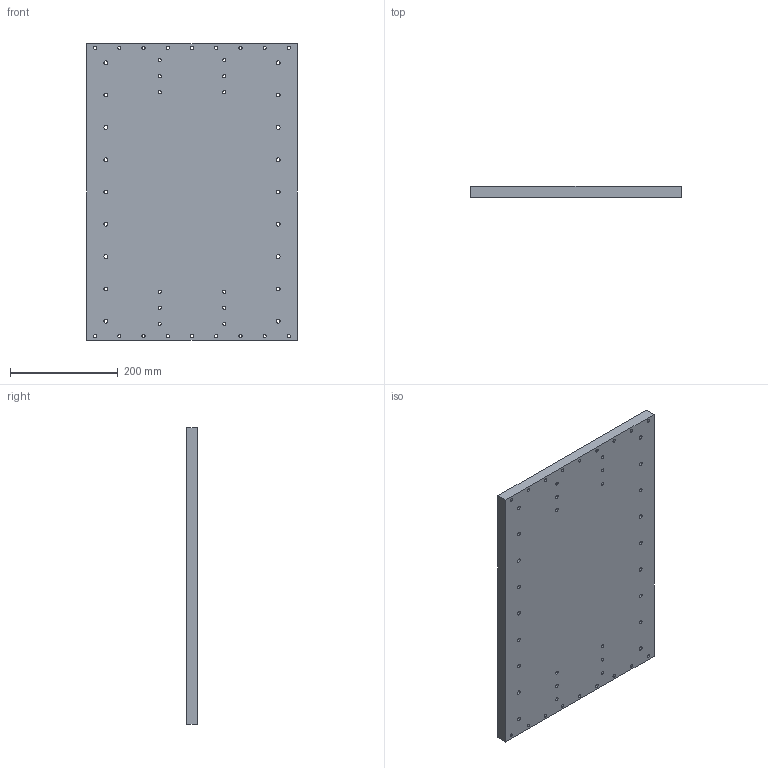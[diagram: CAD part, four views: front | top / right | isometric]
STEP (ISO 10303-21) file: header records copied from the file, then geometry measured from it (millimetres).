
FILE_DESCRIPTION (( 'STEP AP214' ), '1' );
FILE_NAME ('BE-CNCBAT001001-Plaque_bati_-_indice_B.STEP', '2016-09-29T17:19:02', ( '' ), ( '' ), 'SwSTEP 2.0', 'SolidWorks 2015', '' );
FILE_SCHEMA (( 'AUTOMOTIVE_DESIGN' ));
Length unit declared in the file: millimetre
Products named in the file (1): BE-CNCBAT001001-Plaque_bati_-_indice_B
Bounding box: 390 x 20 x 550 mm (x, y, z)
Volume: 4259181 mm3; surface area: 482744.6 mm2
Topology: 1 solids, 1 shells, 102 faces, 300 edges, 200 vertices
Faces by surface type: cylinder 96, plane 6
Entity records: 3742 total; most frequent: DIRECTION 698, CARTESIAN_POINT 603, ORIENTED_EDGE 600, EDGE_CURVE 300, AXIS2_PLACEMENT_3D 295, VERTEX_POINT 200, EDGE_LOOP 198, CIRCLE 192
